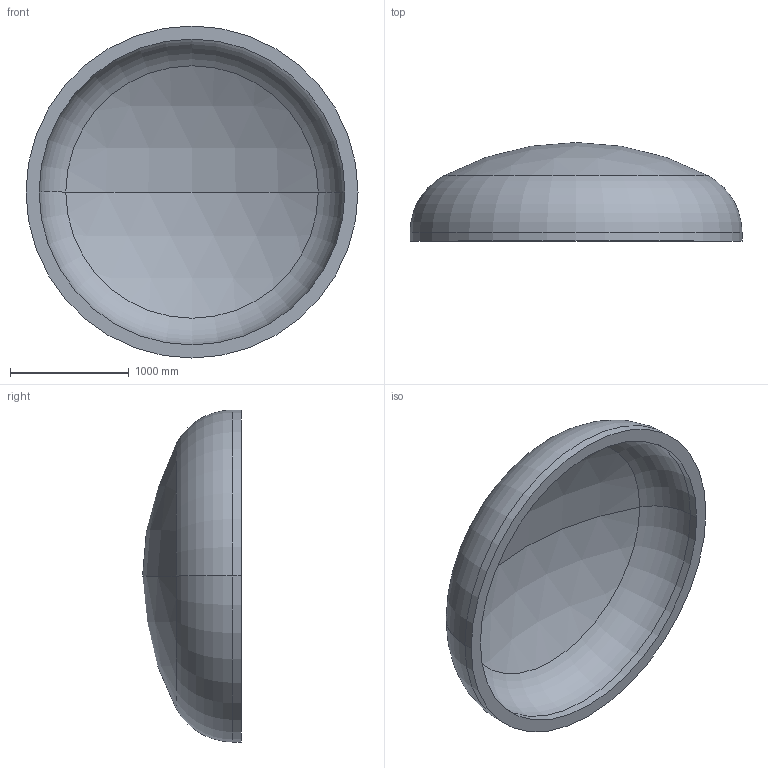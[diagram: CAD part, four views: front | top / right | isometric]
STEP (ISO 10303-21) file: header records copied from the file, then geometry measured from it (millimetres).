
FILE_DESCRIPTION (( 'STEP AP203' ), '1' );
FILE_NAME ('DIN 28013 Korbbogenform_-_Boden DIN 28013 - 2800 x 75 - I - s=110.step', '2016-07-01T17:20:49', ( '' ), ( '' ), 'SwSTEP 2.0', 'SolidWorks 2013', '' );
FILE_SCHEMA (( 'CONFIG_CONTROL_DESIGN' ));
Length unit declared in the file: millimetre
Products named in the file (1): DIN 28013 Korbbogenform_-_Boden DIN 28013 - 2800 x 75 - I - s=110
Bounding box: 2800 x 832.36 x 2800 mm (x, y, z)
Volume: 960723006.8 mm3; surface area: 18422625 mm2
Topology: 1 solids, 1 shells, 13 faces, 24 edges, 14 vertices
Faces by surface type: torus 4, cylinder 4, sphere 4, plane 1
Entity records: 407 total; most frequent: DIRECTION 72, CARTESIAN_POINT 52, ORIENTED_EDGE 48, AXIS2_PLACEMENT_3D 34, EDGE_CURVE 24, CIRCLE 20, VERTEX_POINT 14, EDGE_LOOP 14
